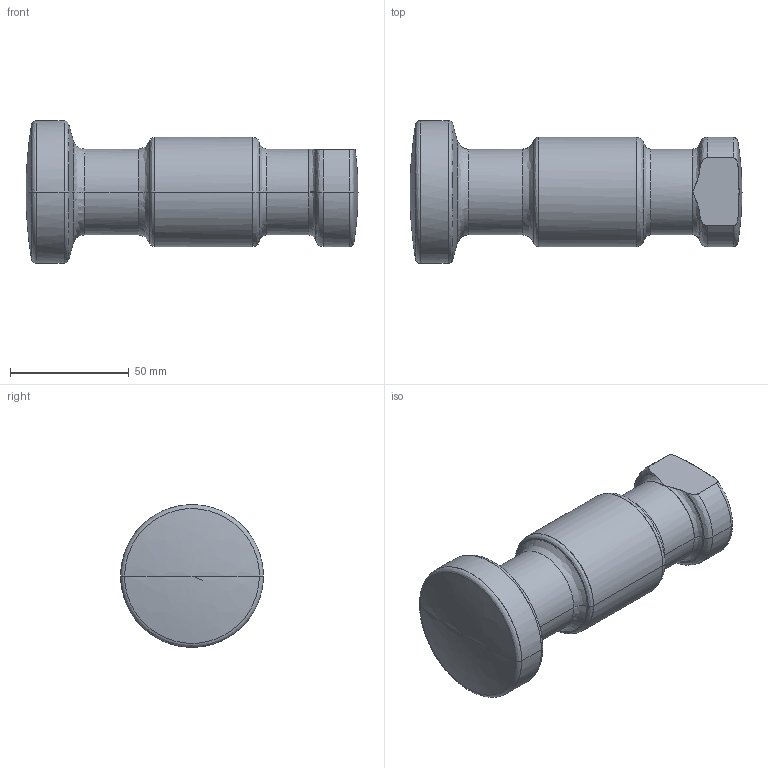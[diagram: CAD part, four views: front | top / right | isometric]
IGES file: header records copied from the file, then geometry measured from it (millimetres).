
Global section: file name: E:\UnigraphicsGraphicData\MISUMI_PRESS-PARTS\IGES\3d_chf36_03515_r00.igs; native system: NX V5.0; preprocessor: UGS NX IGES V5.0; author: MISUMI; date: 20110105.160215; units: millimetre
Bounding box: 139.6 x 60 x 59.94 mm (x, y, z)
Surface area: 24777 mm2 (no closed solid volume)
Topology: 0 solids, 0 shells, 48 faces, 214 edges, 210 vertices
Faces by surface type: bspline 48
